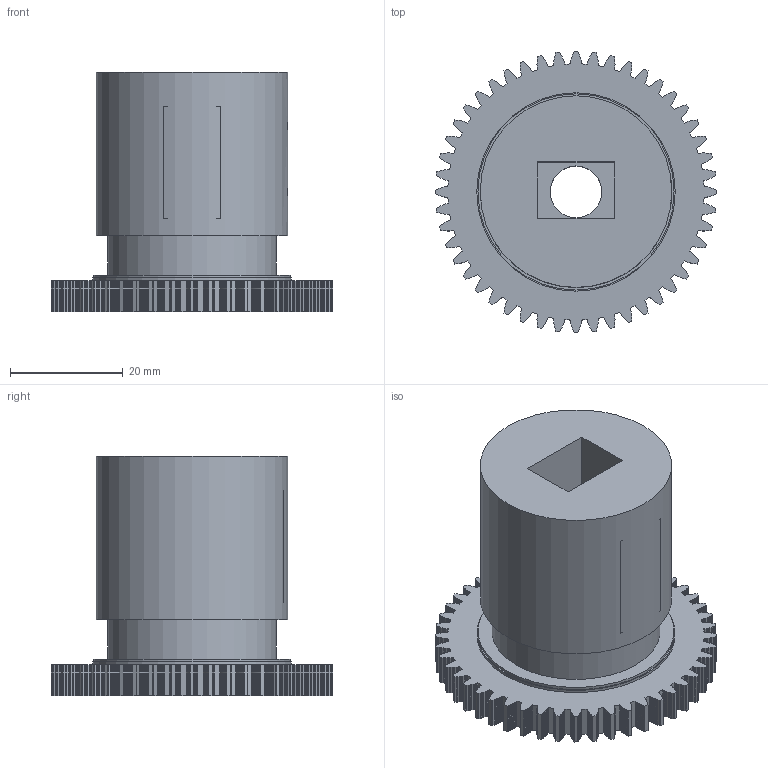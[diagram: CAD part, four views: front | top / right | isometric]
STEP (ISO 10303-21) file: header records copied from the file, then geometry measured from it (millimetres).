
FILE_DESCRIPTION(('Open CASCADE Model'),'2;1');
FILE_NAME('Open CASCADE Shape Model','2026-10-20T19:46:48',('Author'),( 'Open CASCADE'),'Open CASCADE STEP processor 8.0','build123d', 'Unknown');
FILE_SCHEMA(('AUTOMOTIVE_DESIGN { 1 0 10303 214 1 1 1 1 }'));
Length unit declared in the file: millimetre
Products named in the file (2): =>[0:1:1:2]; COMPOUND
Assembly tree (1 placements, depth 2):
  =>[0:1:1:2]
    COMPOUND
Bounding box: 50 x 50 x 42.5 mm (x, y, z)
Volume: 34751.6 mm3; surface area: 11987.8 mm2
Topology: 1 solids, 1 shells, 1079 faces, 3217 edges, 2144 vertices
Faces by surface type: plane 1072, cylinder 7
Full cylindrical faces by diameter (mm): 2.6 x2, 9.2 x1, 29.9 x1, 34 x1, 34.8 x1, 35.2 x1
Entity records: 75515 total; most frequent: CARTESIAN_POINT 15346, DIRECTION 9684, LINE 7487, VECTOR 7487, ORIENTED_EDGE 6434, PCURVE 6434, DEFINITIONAL_REPRESENTATION 6434, EDGE_CURVE 3217
